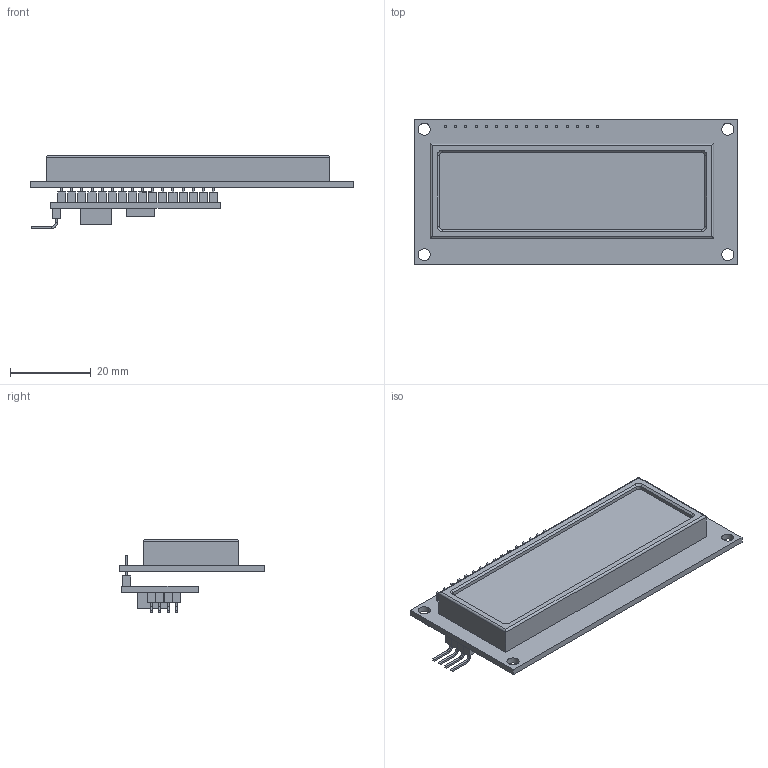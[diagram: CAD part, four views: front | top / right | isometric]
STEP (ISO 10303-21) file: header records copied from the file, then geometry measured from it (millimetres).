
FILE_DESCRIPTION(('FreeCAD Model'),'2;1');
FILE_NAME('Open CASCADE Shape Model','2023-10-28T03:56:39',('Author'),( ''),'Open CASCADE STEP processor 7.5','FreeCAD','Unknown');
FILE_SCHEMA(('AUTOMOTIVE_DESIGN { 1 0 10303 214 1 1 1 1 }'));
Length unit declared in the file: millimetre
Products named in the file (10): display; Body; Body001; I2C; PIN014; Array011; Body146; PIN015; Array012; Body147
Assembly tree (27 placements, depth 4):
  display
    Body
    Body001
    I2C
    PIN014
      Array011
        Body146  x16
    PIN015
      Array012
        Body147  x4
Bounding box: 80 x 36 x 18 mm (x, y, z)
Volume: 14948.9 mm3; surface area: 13518.9 mm2
Topology: 23 solids, 23 shells, 307 faces, 667 edges, 430 vertices
Faces by surface type: plane 282, cylinder 21, cone 4
Full cylindrical faces by diameter (mm): 3 x4, 4.01 x1
Entity records: 5193 total; most frequent: CARTESIAN_POINT 950, DIRECTION 792, LINE 501, VECTOR 501, ORIENTED_EDGE 374, PCURVE 374, DEFINITIONAL_REPRESENTATION 374, EDGE_CURVE 187
